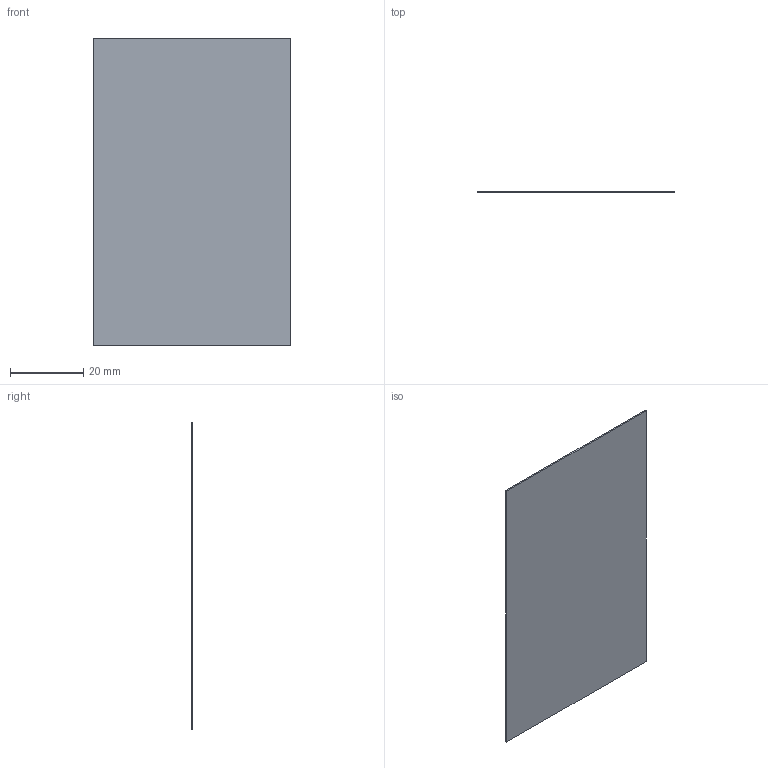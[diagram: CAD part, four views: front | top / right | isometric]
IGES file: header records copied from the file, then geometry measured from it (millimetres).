
Start section:  PTC IGES file: batt_lock_plate_prt.igs
Global section: file name: batt_lock_plate_prt.igs; native system: Pro/ENGINEER by Parametric Technology Corporation; preprocessor: 2000030; author: ECaille; organization: Unknown; date: 000803.091922; units: millimetre
Bounding box: 54 x 0.4 x 84 mm (x, y, z)
Surface area: 9182.4 mm2 (no closed solid volume)
Topology: 0 solids, 0 shells, 6 faces, 40 edges, 56 vertices
Faces by surface type: bspline 6
